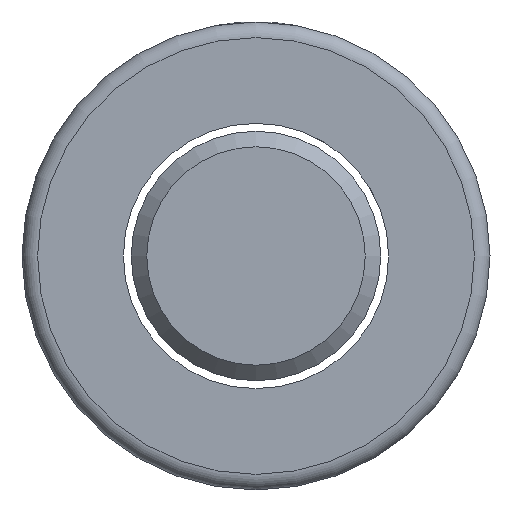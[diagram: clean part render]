
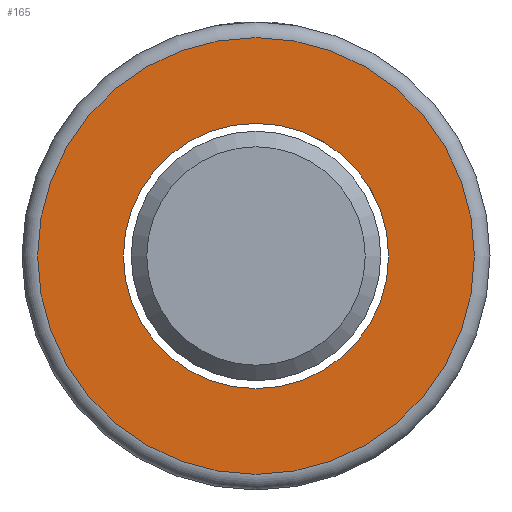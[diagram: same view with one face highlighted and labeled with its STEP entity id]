
A CAD part, left-side view. The second image highlights one B-rep face of the part: STEP entity #165.
In plain terms, the highlighted planar face has unit normal (-1, 0, 0).
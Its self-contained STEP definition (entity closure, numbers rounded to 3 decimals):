
#149=FACE_BOUND('',#215,.T.);
#165=ADVANCED_FACE('',(#185,#149),#176,.F.);
#176=PLANE('',#363);
#185=FACE_OUTER_BOUND('',#214,.T.);
#214=EDGE_LOOP('',(#251));
#215=EDGE_LOOP('',(#252));
#251=ORIENTED_EDGE('',*,*,#316,.F.);
#252=ORIENTED_EDGE('',*,*,#307,.T.);
#285=VERTEX_POINT('',#490);
#294=VERTEX_POINT('',#593);
#307=EDGE_CURVE('',#285,#285,#332,.T.);
#316=EDGE_CURVE('',#294,#294,#336,.T.);
#332=CIRCLE('',#353,8.5);
#336=CIRCLE('',#362,14.);
#353=AXIS2_PLACEMENT_3D('',#489,#401,#402);
#362=AXIS2_PLACEMENT_3D('',#592,#421,#422);
#363=AXIS2_PLACEMENT_3D('',#594,#423,#424);
#401=DIRECTION('',(1.,0.,0.));
#402=DIRECTION('',(0.,1.,0.));
#421=DIRECTION('',(1.,0.,0.));
#422=DIRECTION('',(0.,1.,0.));
#423=DIRECTION('',(1.,0.,0.));
#424=DIRECTION('',(0.,1.,0.));
#489=CARTESIAN_POINT('',(-55.,0.,0.));
#490=CARTESIAN_POINT('',(-55.,8.5,0.));
#592=CARTESIAN_POINT('',(-55.,0.,0.));
#593=CARTESIAN_POINT('',(-55.,14.,0.));
#594=CARTESIAN_POINT('',(-55.,11.25,0.));
